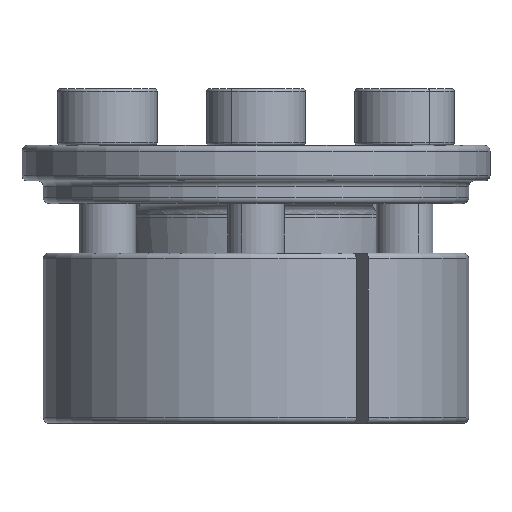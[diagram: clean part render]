
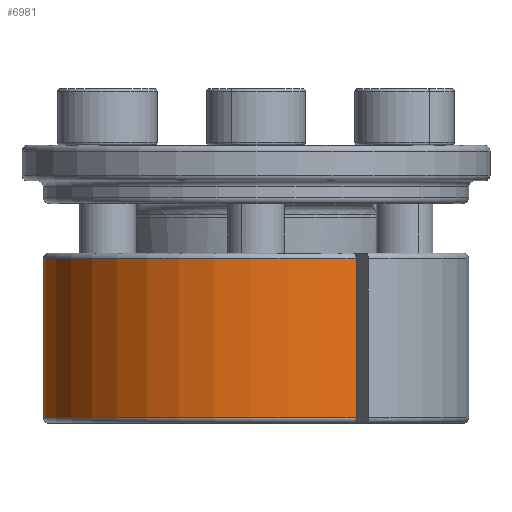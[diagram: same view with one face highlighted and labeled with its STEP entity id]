
A CAD part, front view. The second image highlights one B-rep face of the part: STEP entity #6981.
In plain terms, the highlighted cylindrical face has radius 15 mm (diameter 30 mm), a partial arc.
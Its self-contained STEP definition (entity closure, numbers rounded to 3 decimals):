
#348 = CYLINDRICAL_SURFACE ( 'NONE', #8538, 15. ) ;
#350 = FACE_OUTER_BOUND ( 'NONE', #3033, .T. ) ;
#2282 = DIRECTION ( 'NONE',  ( -1., 0., 0. ) ) ;
#2283 = DIRECTION ( 'NONE',  ( 0., 0., -1. ) ) ;
#2285 = CARTESIAN_POINT ( 'NONE',  ( 0., 0., 11.6 ) ) ;
#2312 = CARTESIAN_POINT ( 'NONE',  ( -15., 0., -1. ) ) ;
#2315 = DIRECTION ( 'NONE',  ( -1., 0., 0. ) ) ;
#2317 = DIRECTION ( 'NONE',  ( 0., 0., -1. ) ) ;
#2318 = CARTESIAN_POINT ( 'NONE',  ( 0., 0., 0.4 ) ) ;
#2320 = DIRECTION ( 'NONE',  ( 0., 0., -1. ) ) ;
#2324 = CARTESIAN_POINT ( 'NONE',  ( 7.063, -13.233, -1. ) ) ;
#2330 = DIRECTION ( 'NONE',  ( 0., 0., 1. ) ) ;
#2696 = CARTESIAN_POINT ( 'NONE',  ( 7.063, -13.233, 0.4 ) ) ;
#3033 = EDGE_LOOP ( 'NONE', ( #6154, #6157, #6126, #6067 ) ) ;
#3441 = CARTESIAN_POINT ( 'NONE',  ( -15., 0., 0.4 ) ) ;
#3926 = CIRCLE ( 'NONE', #6535, 15. ) ;
#3978 = VECTOR ( 'NONE', #2320, 1000. ) ;
#4001 = VECTOR ( 'NONE', #2330, 1000. ) ;
#4003 = LINE ( 'NONE', #2312, #3978 ) ;
#4009 = CIRCLE ( 'NONE', #6326, 15. ) ;
#4029 = LINE ( 'NONE', #2324, #4001 ) ;
#5165 = VERTEX_POINT ( 'NONE', #8149 ) ;
#5188 = VERTEX_POINT ( 'NONE', #8094 ) ;
#5851 = VERTEX_POINT ( 'NONE', #2696 ) ;
#5985 = VERTEX_POINT ( 'NONE', #3441 ) ;
#6067 = ORIENTED_EDGE ( 'NONE', *, *, #6425, .T. ) ;
#6126 = ORIENTED_EDGE ( 'NONE', *, *, #6426, .F. ) ;
#6154 = ORIENTED_EDGE ( 'NONE', *, *, #6435, .T. ) ;
#6157 = ORIENTED_EDGE ( 'NONE', *, *, #6428, .T. ) ;
#6326 = AXIS2_PLACEMENT_3D ( 'NONE', #2318, #2317, #2315 ) ;
#6425 = EDGE_CURVE ( 'NONE', #5851, #5165, #4029, .T. ) ;
#6426 = EDGE_CURVE ( 'NONE', #5851, #5985, #4009, .T. ) ;
#6428 = EDGE_CURVE ( 'NONE', #5188, #5985, #4003, .T. ) ;
#6435 = EDGE_CURVE ( 'NONE', #5165, #5188, #3926, .T. ) ;
#6535 = AXIS2_PLACEMENT_3D ( 'NONE', #2285, #2283, #2282 ) ;
#6981 = ADVANCED_FACE ( 'NONE', ( #350 ), #348, .T. ) ;
#7489 = CARTESIAN_POINT ( 'NONE',  ( 0., 0., -1. ) ) ;
#7491 = DIRECTION ( 'NONE',  ( 0., 0., -1. ) ) ;
#7493 = DIRECTION ( 'NONE',  ( -1., 0., 0. ) ) ;
#8094 = CARTESIAN_POINT ( 'NONE',  ( -15., 0., 11.6 ) ) ;
#8149 = CARTESIAN_POINT ( 'NONE',  ( 7.063, -13.233, 11.6 ) ) ;
#8538 = AXIS2_PLACEMENT_3D ( 'NONE', #7489, #7491, #7493 ) ;
